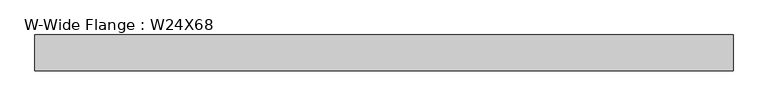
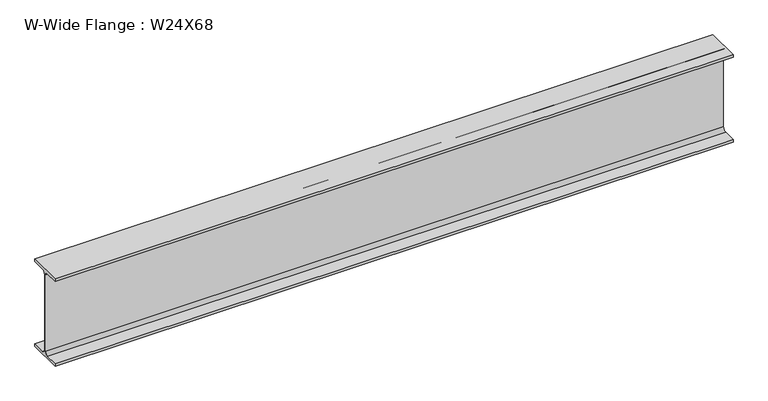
"""IFC4 building model written with IfcOpenShell, lengths in millimetres: beam geometry, W-Wide Flange : W24X68."""

from ifc_helpers import new_model, si_unit, point, frame, frame_2d, origin, place, context, project, spatial, polyline, circle_curve, trimmed, segment, composite_curve, outline, extrude, source, transform, mapped, element, save


def w_wide_flange_w24x68_9b49338e(model_context):
    return source(origin(), model_context, "Body", "SweptSolid", [
        extrude(outline(composite_curve([segment(polyline([(113.919, -286.131), (113.919, -300.99), (-113.919, -300.99), (-113.919, -286.131), (-28.5115, -286.131)]), True, "CONTINUOUS"), segment(trimmed(circle_curve(frame_2d((-28.5115, -262.89)), 23.241), [point((-28.5115, -286.131))], [point((-5.2705, -262.89))], True, "CARTESIAN"), True, "CONTINUOUS"), segment(polyline([(-5.2705, -262.89), (-5.2705, 262.89)]), True, "CONTINUOUS"), segment(trimmed(circle_curve(frame_2d((-28.5115, 262.89)), 23.241), [point((-5.2705, 262.89))], [point((-28.5115, 286.131))], True, "CARTESIAN"), True, "CONTINUOUS"), segment(polyline([(-28.5115, 286.131), (-113.919, 286.131), (-113.919, 300.99), (113.919, 300.99), (113.919, 286.131), (28.5115, 286.131)]), True, "CONTINUOUS"), segment(trimmed(circle_curve(frame_2d((28.5115, 262.89)), 23.241), [point((28.5115, 286.131))], [point((5.2705, 262.89))], True, "CARTESIAN"), True, "CONTINUOUS"), segment(polyline([(5.2705, 262.89), (5.2705, -262.89)]), True, "CONTINUOUS"), segment(trimmed(circle_curve(frame_2d((28.5115, -262.89)), 23.241), [point((5.2705, -262.89))], [point((28.5115, -286.131))], True, "CARTESIAN"), True, "CONTINUOUS"), segment(polyline([(28.5115, -286.131), (113.919, -286.131)]), True, "CONTINUOUS")], self_intersect=False)), frame((-2216.15, 0.0, 0.0), z_axis=(1.0, 0.0, 0.0), x_axis=(0.0, 1.0, 0.0)), (0.0, 0.0, 1.0), 4432.3),
    ])


if __name__ == "__main__":
    model = new_model("IFC4")
    model_context = context("Model", 3, world=origin())
    ifc_project = project(units=[si_unit("LENGTHUNIT", "METRE", prefix="MILLI")], contexts=[model_context])
    site = spatial("IfcSite", under=ifc_project)
    building = spatial("IfcBuilding", under=site)
    placement = place(None, origin())
    w_wide_flange_w24x68_shape = w_wide_flange_w24x68_9b49338e(model_context)
    element("IfcBeam", 1, ObjectType="W-Wide Flange : W24X68", at=placement, inside=building, context=model_context, shape_type="MappedRepresentation", body=[
        mapped(w_wide_flange_w24x68_shape, transform((0.0, 0.0, 0.0), x_axis=(1.0, 0.0, 0.0), y_axis=(0.0, 1.0, 0.0), z_axis=(0.0, 0.0, 1.0))),
    ])
    save(model, "model.ifc")
